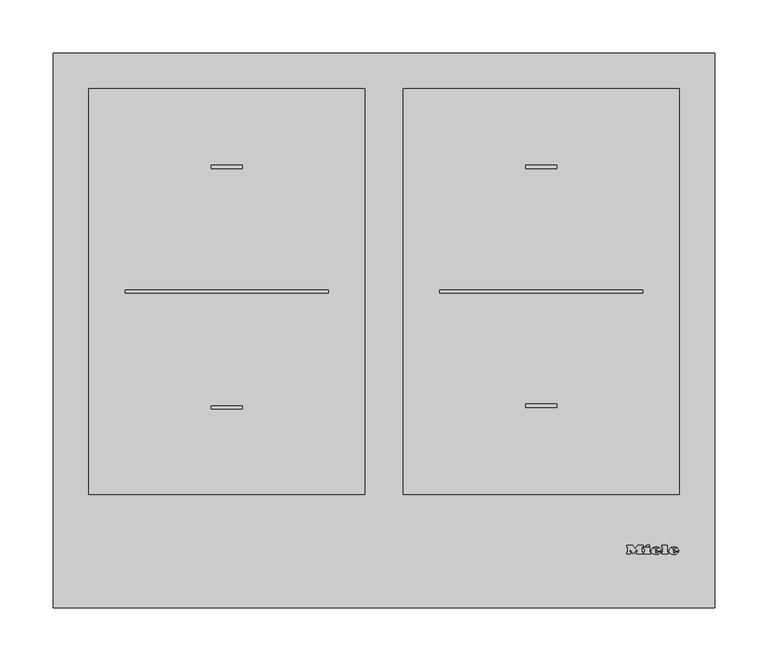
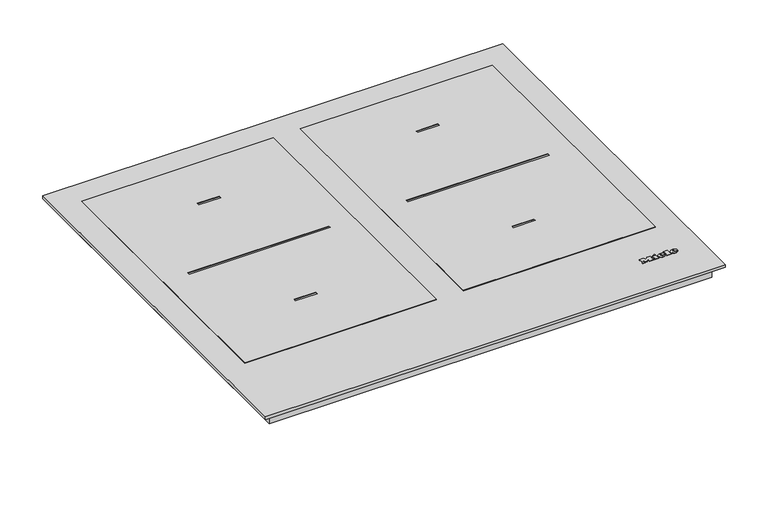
"""IFC4 building model written with IfcOpenShell, lengths in millimetres: proxy geometry, 11258920_CN_KM7564FLC : 26756470_CN_11258920_KM7564FLC."""

from ifc_helpers import new_model, si_unit, point, frame, frame_2d, origin, origin_with_axes, place, context, project, spatial, polyline, circle_curve, ellipse_curve, trimmed, segment, composite_curve, outline, extrude, source, transform, mapped, element, save
from ifc_brep_helpers import plane_surface, cylinder_surface, revolved_surface, extruded_surface, advanced_brep


def specialty_equipment_201f2936(model_context):
    return source(origin(), model_context, "Body", "SolidModel", [
        advanced_brep(
        [(271.06, 52.1948833, 4.4802537), (271.06, 53.0028828, 4.4811551), (276.412, 53.0028828, 4.4811551), (267.1, 53.0028828, 4.4811551), (269.3, 50.2988845, 4.4781386), (276.276, 52.1948833, 4.4802537), (273.86, 52.1948833, 4.4802537), (271.956, 51.2988838, 4.4792542), (271.06, 54.0268821, 4.4822974), (271.06, 54.8988816, 4.4832701), (272.428, 54.8988816, 4.4832701), (272.428, 54.0268821, 4.4822974), (271.06, 52.1959988, 3.4802543), (271.956, 51.2999994, 3.4792548), (273.86, 52.1959988, 3.4802543), (276.276, 52.1959988, 3.4802543), (269.3, 50.3, 3.4781393), (267.1, 53.0039983, 3.4811557), (276.412, 53.0039983, 3.4811557), (271.06, 53.0039983, 3.4811557), (271.06, 54.0279977, 3.482298), (272.428, 54.0279977, 3.482298), (272.428, 54.8999971, 3.4832707), (271.06, 54.8999971, 3.4832707)],
        [
            (0, 1),
            (1, 2),
            (2, 3, ellipse_curve(frame((271.756, 53.0028828, 4.4811551), z_axis=(0.0, -0.0011155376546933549, 0.9999993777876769), x_axis=(-1.0, 0.0, 0.0)), 4.656, 3.848)),
            (3, 4, circle_curve(frame((270.1960436, 53.2748826, 4.4814585), z_axis=(0.0, -0.0011155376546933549, 0.9999993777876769), x_axis=(0.0, -0.9999993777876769, -0.0011155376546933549)), 3.1079688)),
            (4, 5, circle_curve(frame((271.6627936, 55.3868813, 4.4838145), z_axis=(0.0, -0.0011155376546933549, 0.9999993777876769), x_axis=(0.0, -0.9999993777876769, -0.0011155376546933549)), 5.6098607)),
            (5, 6),
            (6, 7, circle_curve(frame((272.3470588, 52.9388828, 4.4810837), z_axis=(0.0, 0.0011155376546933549, -0.9999993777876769), x_axis=(0.0, -0.9999993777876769, -0.0011155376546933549)), 1.6859795)),
            (7, 0, circle_curve(frame((271.956, 52.1948833, 4.4802537), z_axis=(0.0, 0.0011155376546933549, -0.9999993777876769), x_axis=(0.0, -0.9999993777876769, -0.0011155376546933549)), 0.896)),
            (8, 9),
            (9, 10, circle_curve(frame((271.744, 54.8988816, 4.4832701), z_axis=(0.0, 0.0011155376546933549, -0.9999993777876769), x_axis=(0.0, -0.9999993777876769, -0.0011155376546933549)), 0.684)),
            (10, 11),
            (11, 8),
            (12, 13, circle_curve(frame((271.956, 52.1959988, 3.4802543), z_axis=(0.0, -0.0011155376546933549, 0.9999993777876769), x_axis=(0.0, -0.9999993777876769, -0.0011155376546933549)), 0.896)),
            (13, 14, circle_curve(frame((272.3470588, 52.9399984, 3.4810843), z_axis=(0.0, -0.0011155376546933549, 0.9999993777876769), x_axis=(0.0, -0.9999993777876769, -0.0011155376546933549)), 1.6859795)),
            (14, 15),
            (15, 16, circle_curve(frame((271.6627936, 55.3879968, 3.4838151), z_axis=(0.0, 0.0011155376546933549, -0.9999993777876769), x_axis=(0.0, -0.9999993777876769, -0.0011155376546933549)), 5.6098607)),
            (16, 17, circle_curve(frame((270.1960436, 53.2759981, 3.4814591), z_axis=(0.0, 0.0011155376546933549, -0.9999993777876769), x_axis=(0.0, -0.9999993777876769, -0.0011155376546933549)), 3.1079688)),
            (17, 18, ellipse_curve(frame((271.756, 53.0039983, 3.4811557), z_axis=(0.0, 0.0011155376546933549, -0.9999993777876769), x_axis=(-1.0, 0.0, 0.0)), 4.656, 3.848)),
            (18, 19),
            (19, 12),
            (20, 21),
            (21, 22),
            (22, 23, circle_curve(frame((271.744, 54.8999971, 3.4832707), z_axis=(0.0, -0.0011155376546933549, 0.9999993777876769), x_axis=(0.0, -0.9999993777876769, -0.0011155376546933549)), 0.684)),
            (23, 20),
            (0, 12),
            (19, 1),
            (18, 2),
            (5, 15),
            (14, 6),
            (17, 3),
            (13, 7),
            (16, 4),
            (8, 20),
            (23, 9),
            (22, 10),
            (21, 11),
        ],
        [
            plane_surface(frame((271.06, 53.0028828, 4.4811551), z_axis=(0.0, -0.0011155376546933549, 0.9999993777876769), x_axis=(0.0, 0.9999993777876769, 0.0011155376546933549))),
            plane_surface(frame((271.06, 53.0039983, 3.4811557), z_axis=(0.0, 0.0011155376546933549, -0.9999993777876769), x_axis=(0.0, -0.9999993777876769, -0.0011155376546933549))),
            plane_surface(frame((271.06, 52.1948833, 4.4802537), z_axis=(1.0000000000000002, 0.0, 0.0), x_axis=(0.0, 0.001115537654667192, -0.999999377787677))),
            plane_surface(frame((271.06, 53.0028828, 4.4811551), z_axis=(0.0, -0.999999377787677, -0.001115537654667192), x_axis=(0.0, 0.001115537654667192, -0.999999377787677))),
            plane_surface(frame((276.276, 52.1948833, 4.4802537), z_axis=(0.0, 0.999999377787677, 0.001115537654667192), x_axis=(0.0, 0.001115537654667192, -0.999999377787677))),
            extruded_surface(trimmed(ellipse_curve(frame((271.756, 53.0051139, 2.4811563), z_axis=(0.0, -0.0011155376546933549, 0.9999993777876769), x_axis=(-1.0, 0.0, 0.0)), 4.656, 3.848), [point((276.412, 53.0051139, 2.4811563))], [point((267.1, 53.0051139, 2.4811563))], True, "CARTESIAN"), (0.0, -0.001115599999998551, 0.9999994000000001), 1.00000002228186),
            revolved_surface(polyline([(272.3470588, 51.25401994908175, 3.479203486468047), (272.3470588, 51.25290441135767, 4.4792029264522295)]), (272.3470588, 52.9399984, 3.4810843), (0.0, 0.0011155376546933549, -0.9999993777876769)),
            revolved_surface(polyline([(271.956, 51.29999935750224, 3.4792547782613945), (271.956, 51.29888381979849, 4.479254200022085)]), (271.956, 52.1959988, 3.4802543), (0.0, 0.0011155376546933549, -0.9999993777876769)),
            cylinder_surface(frame((270.1960436, 53.2759981, 3.4814591), z_axis=(0.0, -0.0011155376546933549, 0.9999993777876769), x_axis=(0.0, -0.9999993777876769, -0.0011155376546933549)), 3.1079688),
            cylinder_surface(frame((271.6627936, 55.3879968, 3.4838151), z_axis=(0.0, -0.0011155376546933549, 0.9999993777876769), x_axis=(0.0, -0.9999993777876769, -0.0011155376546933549)), 5.6098607),
            plane_surface(frame((271.06, 54.0268821, 4.4822974), z_axis=(1.0000000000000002, 0.0, 0.0), x_axis=(0.0, 0.001115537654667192, -0.999999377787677))),
            revolved_surface(polyline([(271.744, 54.21599752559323, 3.4825076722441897), (271.744, 54.214881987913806, 4.482507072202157)]), (271.744, 54.8999971, 3.4832707), (0.0, 0.0011155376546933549, -0.9999993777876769)),
            plane_surface(frame((272.428, 54.8988816, 4.4832701), z_axis=(-1.0000000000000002, 0.0, 0.0), x_axis=(0.0, 0.001115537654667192, -0.999999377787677))),
            plane_surface(frame((272.428, 54.0268821, 4.4822974), z_axis=(0.0, 0.999999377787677, 0.001115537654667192), x_axis=(0.0, 0.001115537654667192, -0.999999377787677))),
        ],
        [
            (0, [[1, 2, 3, 4, 5, 6, 7, 8], [9, 10, 11, 12]]),
            (1, [[13, 14, 15, 16, 17, 18, 19, 20], [21, 22, 23, 24]]),
            (2, [[-1, 25, -20, 26]]),
            (3, [[-2, -26, -19, 27]]),
            (4, [[-6, 28, -15, 29]]),
            (5, [[-3, -27, -18, 30]]),
            (6, [[-7, -29, -14, 31]]),
            (7, [[-8, -31, -13, -25]]),
            (8, [[-4, -30, -17, 32]]),
            (9, [[-5, -32, -16, -28]]),
            (10, [[-9, 33, -24, 34]]),
            (11, [[-10, -34, -23, 35]]),
            (12, [[-11, -35, -22, 36]]),
            (13, [[-12, -36, -21, -33]]),
        ],
    ),
        advanced_brep(
        [(254.364, 52.1948833, 4.4802537), (254.364, 53.0028828, 4.4811551), (259.716, 53.0028828, 4.4811551), (250.404, 53.0028828, 4.4811551), (252.604, 50.2988845, 4.4781386), (259.58, 52.1948833, 4.4802537), (257.164, 52.1948833, 4.4802537), (255.26, 51.2988838, 4.4792542), (254.364, 54.0268821, 4.4822974), (254.364, 54.8988816, 4.4832701), (255.732, 54.8988816, 4.4832701), (255.732, 54.0268821, 4.4822974), (254.364, 52.1959988, 3.4802543), (255.26, 51.2999994, 3.4792548), (257.164, 52.1959988, 3.4802543), (259.58, 52.1959988, 3.4802543), (252.604, 50.3, 3.4781393), (250.404, 53.0039983, 3.4811557), (259.716, 53.0039983, 3.4811557), (254.364, 53.0039983, 3.4811557), (254.364, 54.0279977, 3.482298), (255.732, 54.0279977, 3.482298), (255.732, 54.8999971, 3.4832707), (254.364, 54.8999971, 3.4832707)],
        [
            (0, 1),
            (1, 2),
            (2, 3, ellipse_curve(frame((255.06, 53.0028828, 4.4811551), z_axis=(0.0, -0.0011155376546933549, 0.9999993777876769), x_axis=(-1.0, 0.0, 0.0)), 4.656, 3.848)),
            (3, 4, circle_curve(frame((253.5000436, 53.2748826, 4.4814585), z_axis=(0.0, -0.0011155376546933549, 0.9999993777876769), x_axis=(0.0, -0.9999993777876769, -0.0011155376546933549)), 3.1079688)),
            (4, 5, circle_curve(frame((254.9667936, 55.3868813, 4.4838145), z_axis=(0.0, -0.0011155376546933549, 0.9999993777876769), x_axis=(0.0, -0.9999993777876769, -0.0011155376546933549)), 5.6098607)),
            (5, 6),
            (6, 7, circle_curve(frame((255.6510588, 52.9388828, 4.4810837), z_axis=(0.0, 0.0011155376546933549, -0.9999993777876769), x_axis=(0.0, -0.9999993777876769, -0.0011155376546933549)), 1.6859795)),
            (7, 0, circle_curve(frame((255.26, 52.1948833, 4.4802537), z_axis=(0.0, 0.0011155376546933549, -0.9999993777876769), x_axis=(0.0, -0.9999993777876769, -0.0011155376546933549)), 0.896)),
            (8, 9),
            (9, 10, circle_curve(frame((255.048, 54.8988816, 4.4832701), z_axis=(0.0, 0.0011155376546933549, -0.9999993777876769), x_axis=(0.0, -0.9999993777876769, -0.0011155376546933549)), 0.684)),
            (10, 11),
            (11, 8),
            (12, 13, circle_curve(frame((255.26, 52.1959988, 3.4802543), z_axis=(0.0, -0.0011155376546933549, 0.9999993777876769), x_axis=(0.0, -0.9999993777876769, -0.0011155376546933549)), 0.896)),
            (13, 14, circle_curve(frame((255.6510588, 52.9399984, 3.4810843), z_axis=(0.0, -0.0011155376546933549, 0.9999993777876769), x_axis=(0.0, -0.9999993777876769, -0.0011155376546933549)), 1.6859795)),
            (14, 15),
            (15, 16, circle_curve(frame((254.9667936, 55.3879968, 3.4838151), z_axis=(0.0, 0.0011155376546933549, -0.9999993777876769), x_axis=(0.0, -0.9999993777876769, -0.0011155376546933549)), 5.6098607)),
            (16, 17, circle_curve(frame((253.5000436, 53.2759981, 3.4814591), z_axis=(0.0, 0.0011155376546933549, -0.9999993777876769), x_axis=(0.0, -0.9999993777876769, -0.0011155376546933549)), 3.1079688)),
            (17, 18, ellipse_curve(frame((255.06, 53.0039983, 3.4811557), z_axis=(0.0, 0.0011155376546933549, -0.9999993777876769), x_axis=(-1.0, 0.0, 0.0)), 4.656, 3.848)),
            (18, 19),
            (19, 12),
            (20, 21),
            (21, 22),
            (22, 23, circle_curve(frame((255.048, 54.8999971, 3.4832707), z_axis=(0.0, -0.0011155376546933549, 0.9999993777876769), x_axis=(0.0, -0.9999993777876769, -0.0011155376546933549)), 0.684)),
            (23, 20),
            (0, 12),
            (19, 1),
            (18, 2),
            (5, 15),
            (14, 6),
            (17, 3),
            (13, 7),
            (16, 4),
            (8, 20),
            (23, 9),
            (22, 10),
            (21, 11),
        ],
        [
            plane_surface(frame((254.364, 53.0028828, 4.4811551), z_axis=(0.0, -0.0011155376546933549, 0.9999993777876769), x_axis=(0.0, 0.9999993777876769, 0.0011155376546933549))),
            plane_surface(frame((254.364, 53.0039983, 3.4811557), z_axis=(0.0, 0.0011155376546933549, -0.9999993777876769), x_axis=(0.0, -0.9999993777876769, -0.0011155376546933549))),
            plane_surface(frame((254.364, 52.1948833, 4.4802537), z_axis=(1.0000000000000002, 0.0, 0.0), x_axis=(0.0, 0.001115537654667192, -0.999999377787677))),
            plane_surface(frame((254.364, 53.0028828, 4.4811551), z_axis=(0.0, -0.999999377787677, -0.001115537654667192), x_axis=(0.0, 0.001115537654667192, -0.999999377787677))),
            plane_surface(frame((259.58, 52.1948833, 4.4802537), z_axis=(0.0, 0.999999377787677, 0.001115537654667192), x_axis=(0.0, 0.001115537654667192, -0.999999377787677))),
            extruded_surface(trimmed(ellipse_curve(frame((255.06, 53.0051139, 2.4811563), z_axis=(0.0, -0.0011155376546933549, 0.9999993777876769), x_axis=(-1.0, 0.0, 0.0)), 4.656, 3.848), [point((259.716, 53.0051139, 2.4811563))], [point((250.404, 53.0051139, 2.4811563))], True, "CARTESIAN"), (0.0, -0.001115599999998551, 0.9999994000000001), 1.00000002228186),
            revolved_surface(polyline([(255.6510588, 51.25401994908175, 3.479203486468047), (255.6510588, 51.25290441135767, 4.4792029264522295)]), (255.6510588, 52.9399984, 3.4810843), (0.0, 0.0011155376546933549, -0.9999993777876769)),
            revolved_surface(polyline([(255.26, 51.29999935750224, 3.4792547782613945), (255.26, 51.29888381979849, 4.479254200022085)]), (255.26, 52.1959988, 3.4802543), (0.0, 0.0011155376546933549, -0.9999993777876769)),
            cylinder_surface(frame((253.5000436, 53.2759981, 3.4814591), z_axis=(0.0, -0.0011155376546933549, 0.9999993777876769), x_axis=(0.0, -0.9999993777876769, -0.0011155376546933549)), 3.1079688),
            cylinder_surface(frame((254.9667936, 55.3879968, 3.4838151), z_axis=(0.0, -0.0011155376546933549, 0.9999993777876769), x_axis=(0.0, -0.9999993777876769, -0.0011155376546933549)), 5.6098607),
            plane_surface(frame((254.364, 54.0268821, 4.4822974), z_axis=(1.0000000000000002, 0.0, 0.0), x_axis=(0.0, 0.001115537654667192, -0.999999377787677))),
            revolved_surface(polyline([(255.048, 54.21599752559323, 3.4825076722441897), (255.048, 54.214881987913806, 4.482507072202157)]), (255.048, 54.8999971, 3.4832707), (0.0, 0.0011155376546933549, -0.9999993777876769)),
            plane_surface(frame((255.732, 54.8988816, 4.4832701), z_axis=(-1.0000000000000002, 0.0, 0.0), x_axis=(0.0, 0.001115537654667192, -0.999999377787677))),
            plane_surface(frame((255.732, 54.0268821, 4.4822974), z_axis=(0.0, 0.999999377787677, 0.001115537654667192), x_axis=(0.0, 0.001115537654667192, -0.999999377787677))),
        ],
        [
            (0, [[1, 2, 3, 4, 5, 6, 7, 8], [9, 10, 11, 12]]),
            (1, [[13, 14, 15, 16, 17, 18, 19, 20], [21, 22, 23, 24]]),
            (2, [[-1, 25, -20, 26]]),
            (3, [[-2, -26, -19, 27]]),
            (4, [[-6, 28, -15, 29]]),
            (5, [[-3, -27, -18, 30]]),
            (6, [[-7, -29, -14, 31]]),
            (7, [[-8, -31, -13, -25]]),
            (8, [[-4, -30, -17, 32]]),
            (9, [[-5, -32, -16, -28]]),
            (10, [[-9, 33, -24, 34]]),
            (11, [[-10, -34, -23, 35]]),
            (12, [[-11, -35, -22, 36]]),
            (13, [[-12, -36, -21, -33]]),
        ],
    ),
        extrude(outline(polyline([(0.0, 0.0), (-0.0109086, -2.9993294), (-1.4390415, -2.9920868), (-1.4315307, 0.0), (0.0, 0.0)])), frame((245.62, 57.8279953, 3.486537), z_axis=(0.0, -0.001115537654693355, 0.999999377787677), x_axis=(-0.4247202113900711, 0.9053240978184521, 0.0010099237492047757)), (0.0, 0.0, 1.0), 1.0),
        extrude(outline(polyline([(-0.4933908, 2.4141097), (-2.7800844, -2.4601583), (-7.0459741, -0.4588767), (-7.4401145, -1.299018), (-8.6568709, -0.728194), (-5.9760369, 4.9862153), (-4.7592805, 4.4153913), (-5.1636142, 3.5535222), (-2.1941493, 2.1604399), (-1.7898157, 3.022309), (-0.4933908, 2.4141097)])), frame((245.62, 57.8279953, 3.486537), z_axis=(0.0, -0.001115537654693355, 0.999999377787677), x_axis=(-0.4247202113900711, 0.9053240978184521, 0.0010099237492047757)), (0.0, 0.0, 1.0), 1.0),
        extrude(outline(polyline([(0.0, 0.0), (0.0, -1.304), (-5.504, -1.304), (-5.504, 5.3519999), (-6.488, 5.3519999), (-6.488, 6.696), (0.0, 6.696), (0.0, 5.3519999), (-0.96, 5.3519999), (-0.96, 0.0), (0.0, 0.0)])), frame((260.164, 56.9959958, 3.4856089), z_axis=(0.0, -0.0011155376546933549, 0.9999993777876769), x_axis=(-1.0, 0.0, 0.0)), (0.0, 0.0, 1.0), 1.0),
        extrude(outline(polyline([(0.0, 0.0), (0.0, -1.304), (-5.576, -1.304), (-7.92, 1.696), (-10.256, -1.304), (-15.128, -1.304), (-15.128, 0.0), (-14.112, 0.0), (-14.112, 5.3519999), (-15.128, 5.3519999), (-15.128, 6.696), (-8.744, 6.696), (-8.744, 5.3519999), (-9.728, 5.3519999), (-9.728, 1.8807777), (-6.136, 6.696), (-2.56, 1.9488752), (-2.56, 5.3519999), (-3.52, 5.3519999), (-3.52, 6.696), (0.0, 6.696), (0.0, 5.3519999), (-0.968, 5.3519999), (-0.968, 0.0), (0.0, 0.0)])), frame((227.7, 56.9959958, 3.4856089), z_axis=(0.0, -0.0011155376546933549, 0.9999993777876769), x_axis=(-1.0, 0.0, 0.0)), (0.0, 0.0, 1.0), 1.0),
        extrude(outline(polyline([(310.0, 520.0), (310.0, 0.0), (-310.0, 0.0), (-310.0, 520.0), (310.0, 520.0)])), origin_with_axes(), (0.0, 0.0, 1.0), 4.0),
        extrude(outline(polyline([(298.5, 508.5), (298.5, 11.5), (-298.5, 11.5), (-298.5, 508.5), (298.5, 508.5)])), frame((0.0, 0.0, -16.8), z_axis=(0.0, 0.0, 1.0), x_axis=(1.0, 0.0, 0.0)), (0.0, 0.0, 1.0), 16.8),
        extrude(outline(polyline([(-202.8, 318.7), (-224.2, 318.7), (-224.2, 402.1), (-202.8, 402.1), (-202.8, 452.3), (203.2, 452.3), (203.2, 81.3), (-202.8, 81.3), (-202.8, 318.7)])), frame((0.0, 0.0, -46.5), z_axis=(0.0, 0.0, 1.0), x_axis=(1.0, 0.0, 0.0)), (0.0, 0.0, 1.0), 29.7),
        extrude(outline(polyline([(141.2772603, 415.5), (133.9, 415.5), (133.9, 416.7557039), (140.0215564, 416.7557039), (140.0215564, 420.0519266), (134.370889, 420.0519266), (134.370889, 421.3076304), (140.0215564, 421.3076304), (140.0215564, 424.2899271), (134.056963, 424.2899271), (134.056963, 425.545631), (141.2772603, 425.545631), (141.2772603, 415.5)])), frame((0.0, 0.0, -77.5), z_axis=(0.0, 0.0, 1.0), x_axis=(1.0, 0.0, 0.0)), (0.0, 0.0, 1.0), 1.0),
        extrude(outline(polyline([(132.0164442, 415.5), (125.7379248, 415.5), (125.7379248, 416.7557039), (130.7607403, 416.7557039), (130.7607403, 425.545631), (132.0164442, 425.545631), (132.0164442, 415.5)])), frame((0.0, 0.0, -77.5), z_axis=(0.0, 0.0, 1.0), x_axis=(1.0, 0.0, 0.0)), (0.0, 0.0, 1.0), 1.0),
        extrude(outline(composite_curve([segment(trimmed(circle_curve(frame_2d((133.9, 420.5)), 7.5), [point((133.9, 428.0))], [point((133.9, 413.0))], False, "CARTESIAN"), True, "CONTINUOUS"), segment(trimmed(circle_curve(frame_2d((133.9, 420.5)), 7.5), [point((133.9, 413.0))], [point((133.9, 428.0))], False, "CARTESIAN"), True, "CONTINUOUS")], self_intersect=False)), frame((0.0, 0.0, -76.5), z_axis=(0.0, 0.0, 1.0), x_axis=(1.0, 0.0, 0.0)), (0.0, 0.0, 1.0), 30.0),
        extrude(outline(polyline([(276.75, 486.75), (276.75, 106.25), (18.25, 106.25), (18.25, 486.75), (276.75, 486.75)]), holes=[polyline([(52.2, 298.1), (52.2, 294.9), (242.8, 294.9), (242.8, 298.1), (52.2, 298.1)]), polyline([(162.15, 414.85), (132.85, 414.85), (132.85, 411.65), (162.15, 411.65), (162.15, 414.85)]), polyline([(162.15, 190.95), (132.85, 190.95), (132.85, 187.75), (162.15, 187.75), (162.15, 190.95)])]), frame((0.0, 0.0, 4.0), z_axis=(0.0, 0.0, 1.0), x_axis=(1.0, 0.0, 0.0)), (0.0, 0.0, 1.0), 1.0),
        extrude(outline(polyline([(-18.25, 486.75), (-18.25, 106.25), (-276.75, 106.25), (-276.75, 486.75), (-18.25, 486.75)]), holes=[polyline([(-52.2, 298.1), (-242.8, 298.1), (-242.8, 294.9), (-52.2, 294.9), (-52.2, 298.1)]), polyline([(-132.85, 414.85), (-162.15, 414.85), (-162.15, 411.65), (-132.85, 411.65), (-132.85, 414.85)]), polyline([(-132.85, 189.35), (-162.15, 189.35), (-162.15, 186.15), (-132.85, 186.15), (-132.85, 189.35)])]), frame((0.0, 0.0, 4.0), z_axis=(0.0, 0.0, 1.0), x_axis=(1.0, 0.0, 0.0)), (0.0, 0.0, 1.0), 1.0),
        extrude(outline(composite_curve([segment(trimmed(circle_curve(frame_2d((-291.0, 80.0)), 3.0), [point((-291.0, 83.0))], [point((-291.0, 77.0))], False, "CARTESIAN"), True, "CONTINUOUS"), segment(trimmed(circle_curve(frame_2d((-291.0, 80.0)), 3.0), [point((-291.0, 77.0))], [point((-291.0, 83.0))], False, "CARTESIAN"), True, "CONTINUOUS")], self_intersect=False)), frame((0.0, 0.0, -22.0), z_axis=(0.0, 0.0, 1.0), x_axis=(1.0, 0.0, 0.0)), (0.0, 0.0, 1.0), 5.2),
        extrude(outline(composite_curve([segment(trimmed(circle_curve(frame_2d((291.0, 440.0)), 3.0), [point((291.0, 443.0))], [point((291.0, 437.0))], False, "CARTESIAN"), True, "CONTINUOUS"), segment(trimmed(circle_curve(frame_2d((291.0, 440.0)), 3.0), [point((291.0, 437.0))], [point((291.0, 443.0))], False, "CARTESIAN"), True, "CONTINUOUS")], self_intersect=False)), frame((0.0, 0.0, -22.0), z_axis=(0.0, 0.0, 1.0), x_axis=(1.0, 0.0, 0.0)), (0.0, 0.0, 1.0), 5.2),
    ])


if __name__ == "__main__":
    model = new_model("IFC4")
    model_context = context("Model", 3, world=origin())
    ifc_project = project(units=[si_unit("LENGTHUNIT", "METRE", prefix="MILLI")], contexts=[model_context])
    site = spatial("IfcSite", under=ifc_project)
    building = spatial("IfcBuilding", under=site)
    placement = place(None, origin())
    specialty_equipment_shape = specialty_equipment_201f2936(model_context)
    element("IfcBuildingElementProxy", 1, Name="11258920_CN_KM7564FLC : 26756470_CN_11258920_KM7564FLC", ObjectType="11258920_CN_KM7564FLC : 26756470_CN_11258920_KM7564FLC", at=placement, inside=building, context=model_context, shape_type="MappedRepresentation", body=[
        mapped(specialty_equipment_shape, transform((0.0, 0.0, 0.0), x_axis=(1.0, 0.0, 0.0), y_axis=(0.0, 1.0, 0.0), z_axis=(0.0, 0.0, 1.0))),
    ])
    save(model, "model.ifc")
